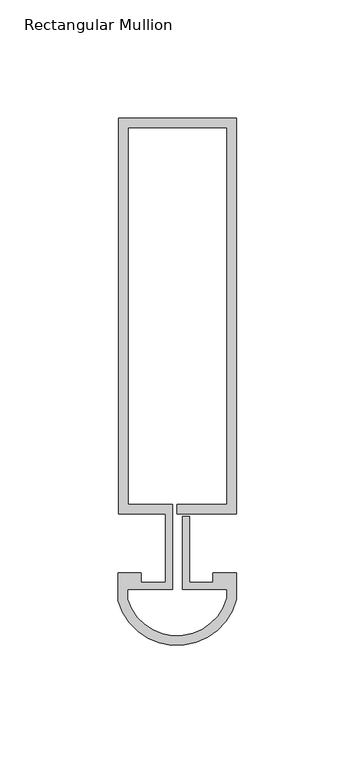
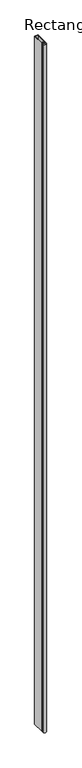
"""IFC4 building model written with IfcOpenShell, lengths in millimetres: member geometry, Rectangular Mullion : Reynaers_CW-50_Mullion-Transom_Vertical_167.5mm_Facecap-07."""

import ifcopenshell
import ifcopenshell.guid

model = None  # the IFC model being written
_history = None  # IfcOwnerHistory: only IFC2X3 demands one
_inside = {}  # id of a spatial element -> (the spatial element, [elements in it])
_under = {}  # id of a project, library or spatial element -> (it, [spatial elements below it])
_declared = {}  # id of a project -> (the project, [libraries it declares])
_typed = {}  # id of a type object -> (the type object, [elements of that type])
_made_of = {}  # id of a material, layer set ... -> (it, [elements and type objects made of it])


def new_model(schema):
    """Start an empty IFC model of exactly this schema.

    Asked for "IFC4X3", IfcOpenShell would pick the latest addendum, in which some entities
    have other attributes; the version numbers below select the first issue.
    IFC2X3 requires an IfcOwnerHistory on every rooted entity: one is made here for all.
    """
    global model, _history
    if schema == "IFC4X3":
        model = ifcopenshell.file(schema_version=(4, 3, 0, 0))
    else:
        model = ifcopenshell.file(schema=schema)
    _inside.clear()
    _under.clear()
    _declared.clear()
    _typed.clear()
    _made_of.clear()
    _history = None
    if model.schema == "IFC2X3":
        org = make("IfcOrganization", Name="unknown")
        user = make(
            "IfcPersonAndOrganization",
            ThePerson=make("IfcPerson", FamilyName="unknown"),
            TheOrganization=org,
        )
        app = make(
            "IfcApplication",
            ApplicationDeveloper=org,
            Version="unknown",
            ApplicationFullName="unknown",
            ApplicationIdentifier="unknown",
        )
        _history = make(
            "IfcOwnerHistory",
            OwningUser=user,
            OwningApplication=app,
            ChangeAction="ADDED",
            CreationDate=0,
        )
    return model


def make(cls, **values):
    """One entity of the class cls with the attributes given. An attribute that is None is left unset."""
    return model.create_entity(
        cls, **{name: value for name, value in values.items() if value is not None}
    )


def rooted(cls, **values):
    """An entity with a GlobalId (a new one), such as an element, a storey or a relation."""
    return make(cls, GlobalId=ifcopenshell.guid.new(), OwnerHistory=_history, **values)


def si_unit(unit_type, name, prefix=None):
    """IfcSIUnit, for example si_unit("LENGTHUNIT", "METRE", prefix="MILLI")."""
    return make("IfcSIUnit", UnitType=unit_type, Prefix=prefix, Name=name)


def assignment(units):
    """IfcUnitAssignment: the units of a project."""
    return None if units is None else make("IfcUnitAssignment", Units=units)


def point(xyz):
    """IfcCartesianPoint."""
    return None if xyz is None else make("IfcCartesianPoint", Coordinates=xyz)


def direction(xyz):
    """IfcDirection."""
    return None if xyz is None else make("IfcDirection", DirectionRatios=xyz)


def frame(location, z_axis=None, x_axis=None):
    """IfcAxis2Placement3D, a coordinate frame: its origin and axes. An axis left out is left unset."""
    return make(
        "IfcAxis2Placement3D",
        Location=point(location),
        Axis=direction(z_axis),
        RefDirection=direction(x_axis),
    )


def frame_2d(location, x_axis=None):
    """IfcAxis2Placement2D, a coordinate frame in the plane: its origin and x axis."""
    return make(
        "IfcAxis2Placement2D", Location=point(location), RefDirection=direction(x_axis)
    )


def origin():
    """The frame at (0, 0, 0) with its axes left unset."""
    return frame((0.0, 0.0, 0.0))


def place(relative_to, where):
    """IfcLocalPlacement: puts the frame where relative to a parent placement (None: the world)."""
    return make(
        "IfcLocalPlacement", PlacementRelTo=relative_to, RelativePlacement=where
    )


def context(
    kind, dimensions, precision=None, world=None, true_north=None, identifier=None
):
    """IfcGeometricRepresentationContext, for example the 3D "Model" context."""
    return make(
        "IfcGeometricRepresentationContext",
        ContextIdentifier=identifier,
        ContextType=kind,
        CoordinateSpaceDimension=dimensions,
        Precision=precision,
        WorldCoordinateSystem=world,
        TrueNorth=true_north,
    )


def project(units=None, contexts=None):
    """IfcProject with its units and contexts."""
    return rooted(
        "IfcProject",
        Name="project",
        RepresentationContexts=contexts,
        UnitsInContext=assignment(units),
    )


def spatial(cls, under=None, at=None, **own):
    """A site, building, storey or space (cls), placed at a placement, below another one or the project."""
    s = rooted(cls, ObjectPlacement=at, **own)
    if under is not None:
        _under.setdefault(under.id(), (under, []))[1].append(s)
    return s


def polyline(points):
    """IfcPolyline through the points."""
    return make("IfcPolyline", Points=[point(p) for p in points])


def circle_curve(where, radius):
    """IfcCircle in the frame where."""
    return make("IfcCircle", Position=where, Radius=radius)


def trimmed(basis, trim1, trim2, sense, master):
    """IfcTrimmedCurve: the piece of a basis curve between two trims."""
    return make(
        "IfcTrimmedCurve",
        BasisCurve=basis,
        Trim1=trim1,
        Trim2=trim2,
        SenseAgreement=sense,
        MasterRepresentation=master,
    )


def segment(curve, same_sense, transition):
    """IfcCompositeCurveSegment."""
    return make(
        "IfcCompositeCurveSegment",
        Transition=transition,
        SameSense=same_sense,
        ParentCurve=curve,
    )


def composite_curve(segments, self_intersect=None):
    """IfcCompositeCurve: segments joined end to end."""
    return make("IfcCompositeCurve", Segments=segments, SelfIntersect=self_intersect)


def outline(outer, holes=None, kind="AREA"):
    """IfcArbitraryClosedProfileDef: a profile drawn as a closed curve; with holes, ...WithVoids."""
    if holes is None:
        return make("IfcArbitraryClosedProfileDef", ProfileType=kind, OuterCurve=outer)
    return make(
        "IfcArbitraryProfileDefWithVoids",
        ProfileType=kind,
        OuterCurve=outer,
        InnerCurves=holes,
    )


def extrude(swept, where, along, depth):
    """IfcExtrudedAreaSolid: the profile swept, set in the frame where, extruded along a direction by depth."""
    return make(
        "IfcExtrudedAreaSolid",
        SweptArea=swept,
        Position=where,
        ExtrudedDirection=direction(along),
        Depth=depth,
    )


def shape(context_of_items, identifier, shape_type, items):
    """IfcShapeRepresentation: the items that make up one representation, for example the "Body"."""
    return make(
        "IfcShapeRepresentation",
        ContextOfItems=context_of_items,
        RepresentationIdentifier=identifier,
        RepresentationType=shape_type,
        Items=items,
    )


def source(mapping_origin, context_of_items, identifier, shape_type, items):
    """IfcRepresentationMap: a shape defined once, which mapped items show again and again."""
    return make(
        "IfcRepresentationMap",
        MappingOrigin=mapping_origin,
        MappedRepresentation=shape(context_of_items, identifier, shape_type, items),
    )


def transform(
    local_origin,
    x_axis=None,
    y_axis=None,
    z_axis=None,
    scale=None,
    scale2=None,
    scale3=None,
    uniform=True,
):
    """IfcCartesianTransformationOperator3D, or its non-uniform kind. x_axis, y_axis, z_axis: its Axis1, 2, 3."""
    if uniform:
        return make(
            "IfcCartesianTransformationOperator3D",
            Axis1=direction(x_axis),
            Axis2=direction(y_axis),
            LocalOrigin=point(local_origin),
            Scale=scale,
            Axis3=direction(z_axis),
        )
    return make(
        "IfcCartesianTransformationOperator3DnonUniform",
        Axis1=direction(x_axis),
        Axis2=direction(y_axis),
        LocalOrigin=point(local_origin),
        Scale=scale,
        Axis3=direction(z_axis),
        Scale2=scale2,
        Scale3=scale3,
    )


def mapped(mapping_source, mapping_target):
    """IfcMappedItem: shows the shape of a source again, moved by a transform."""
    return make(
        "IfcMappedItem", MappingSource=mapping_source, MappingTarget=mapping_target
    )


def made_of(thing, what):
    """Note that an element or type object is made of a material, layer set ...; save() writes the relation."""
    if what is not None:
        _made_of.setdefault(what.id(), (what, []))[1].append(thing)
    return thing


def element(
    cls,
    number,
    at=None,
    inside=None,
    cuts=None,
    type_object=None,
    material=None,
    context=None,
    identifier="Body",
    shape_type=None,
    held_by="IfcProductDefinitionShape",
    body=None,
    shapes=None,
    **own,
):
    """One element of the class cls, such as IfcWall. Its Tag is "e" and its number.

    at: its placement. inside: the storey or other place that contains it. cuts: it is an
    opening in that element (IfcRelVoidsElement). A single representation is given by context,
    identifier, shape_type and body (its items); several are given by shapes. held_by: the class
    of the entity that holds the representations. save() writes the other relations.
    """
    e = rooted(cls, Tag="e%d" % number, ObjectPlacement=at, **own)
    if body is not None:
        shapes = [shape(context, identifier, shape_type, body)]
    if shapes is not None:
        e.Representation = make(held_by, Representations=shapes)
    if inside is not None:
        _inside.setdefault(inside.id(), (inside, []))[1].append(e)
    if cuts is not None:
        rooted(
            "IfcRelVoidsElement", RelatingBuildingElement=cuts, RelatedOpeningElement=e
        )
    if type_object is not None:
        _typed.setdefault(type_object.id(), (type_object, []))[1].append(e)
    return made_of(e, material)


def aggregate(whole, parts):
    """IfcRelAggregates: a whole, such as a stair, and the parts it consists of."""
    return rooted("IfcRelAggregates", RelatingObject=whole, RelatedObjects=parts)


def save(model, path):
    """Write the relations noted so far, then the file.

    IfcRelAggregates (storeys below a building ...), IfcRelContainedInSpatialStructure (elements
    in a storey), IfcRelDefinesByType, IfcRelAssociatesMaterial and IfcRelDeclares: one each for
    every whole, place, type object, material and project.
    """
    for whole, parts in _under.values():
        aggregate(whole, parts)
    for where, things in _inside.values():
        rooted(
            "IfcRelContainedInSpatialStructure",
            RelatedElements=things,
            RelatingStructure=where,
        )
    for kind, things in _typed.values():
        rooted("IfcRelDefinesByType", RelatedObjects=things, RelatingType=kind)
    for what, things in _made_of.values():
        rooted("IfcRelAssociatesMaterial", RelatedObjects=things, RelatingMaterial=what)
    for by, libraries in _declared.values():
        rooted("IfcRelDeclares", RelatingContext=by, RelatedDefinitions=libraries)
    model.write(path)


def rectangular_mullion_15e3f534(model_context):
    return source(origin(), model_context, "Body", "SweptSolid", [
        extrude(outline(composite_curve([segment(polyline([(-24.8004059, 180.0), (25.1995941, 180.0), (25.1995941, 12.5), (0.0, 12.5), (0.0, 16.5), (21.1995941, 16.5), (21.1995941, 176.0), (-20.8004059, 176.0), (-20.8004059, 16.5), (-1.9004059, 16.5), (-1.9004059, -19.5), (-20.994845, -19.5), (-20.994845, -23.684232)]), True, "CONTINUOUS"), segment(trimmed(circle_curve(frame_2d((0.0217873, -17.1383151)), 22.0124479), [point((-20.994845, -23.684232))], [point((21.1995941, -23.1423436))], True, "CARTESIAN"), True, "CONTINUOUS"), segment(polyline([(21.1995941, -23.1423436), (21.1995941, -19.5), (2.2995941, -19.5), (2.2995941, 11.5), (5.2995941, 11.5), (5.2995941, -16.5), (15.2996495, -16.5), (15.2996495, -12.5), (25.1995941, -12.5), (25.1995941, -23.6747887)]), True, "CONTINUOUS"), segment(trimmed(circle_curve(frame_2d((0.0217873, -17.1383151)), 26.0124479), [point((25.1995941, -23.6747887))], [point((-24.994845, -24.2668179))], False, "CARTESIAN"), True, "CONTINUOUS"), segment(polyline([(-24.994845, -24.2668179), (-24.994845, -12.5), (-15.2996495, -12.5), (-15.2996495, -16.5), (-4.9004059, -16.5), (-4.9004059, 12.5), (-24.8004059, 12.5), (-24.8004059, 180.0)]), True, "CONTINUOUS")], self_intersect=False)), frame((0.0, 0.0, -10400.0), z_axis=(0.0, 0.0, 1.0), x_axis=(1.0, 0.0, 0.0)), (0.0, 0.0, 1.0), 10400.0),
    ])


if __name__ == "__main__":
    model = new_model("IFC4")
    model_context = context("Model", 3, world=origin())
    ifc_project = project(units=[si_unit("LENGTHUNIT", "METRE", prefix="MILLI")], contexts=[model_context])
    site = spatial("IfcSite", under=ifc_project)
    building = spatial("IfcBuilding", under=site)
    placement = place(None, origin())
    rectangular_mullion_shape = rectangular_mullion_15e3f534(model_context)
    element("IfcMember", 1, ObjectType="Rectangular Mullion : Reynaers_CW-50_Mullion-Transom_Vertical_167.5mm_Facecap-07", at=placement, inside=building, context=model_context, shape_type="MappedRepresentation", body=[
        mapped(rectangular_mullion_shape, transform((0.0, 0.0, 0.0), x_axis=(1.0, 0.0, 0.0), y_axis=(0.0, 1.0, 0.0), z_axis=(0.0, 0.0, 1.0))),
    ])
    save(model, "model.ifc")
